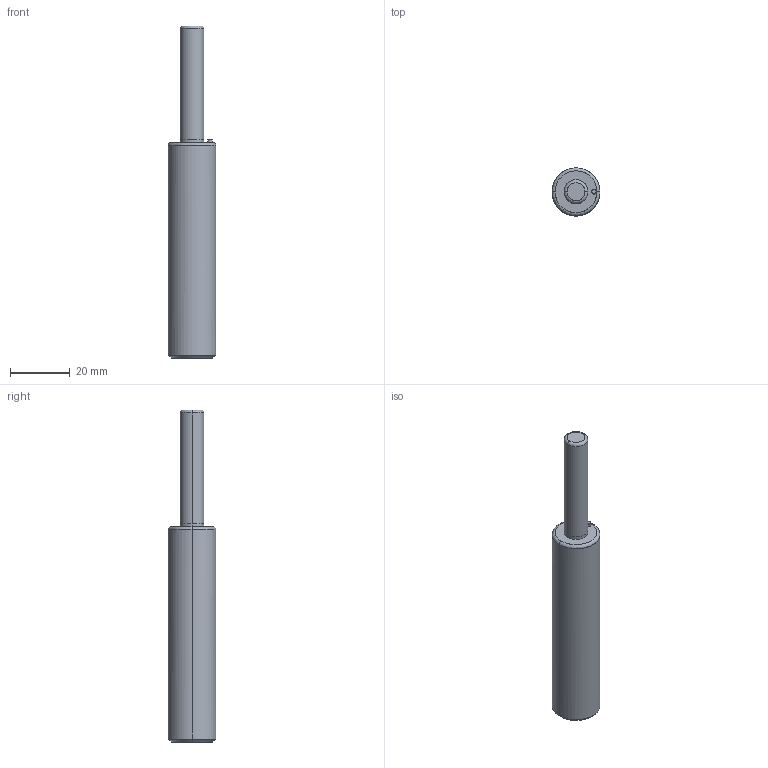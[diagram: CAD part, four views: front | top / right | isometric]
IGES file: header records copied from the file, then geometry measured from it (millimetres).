
Global section: file name: E:\UnigraphicsGraphicData\MISUMI_PRESS-PARTS\IGES\3d_mgsc16-38_04563_r00.igs; native system: NX V5.0; preprocessor: UGS NX IGES V5.0; author: MISUMI; date: 20110105.161435; units: millimetre
Bounding box: 16 x 16 x 111 mm (x, y, z)
Surface area: 5103.1 mm2 (no closed solid volume)
Topology: 0 solids, 0 shells, 24 faces, 136 edges, 134 vertices
Faces by surface type: bspline 24
